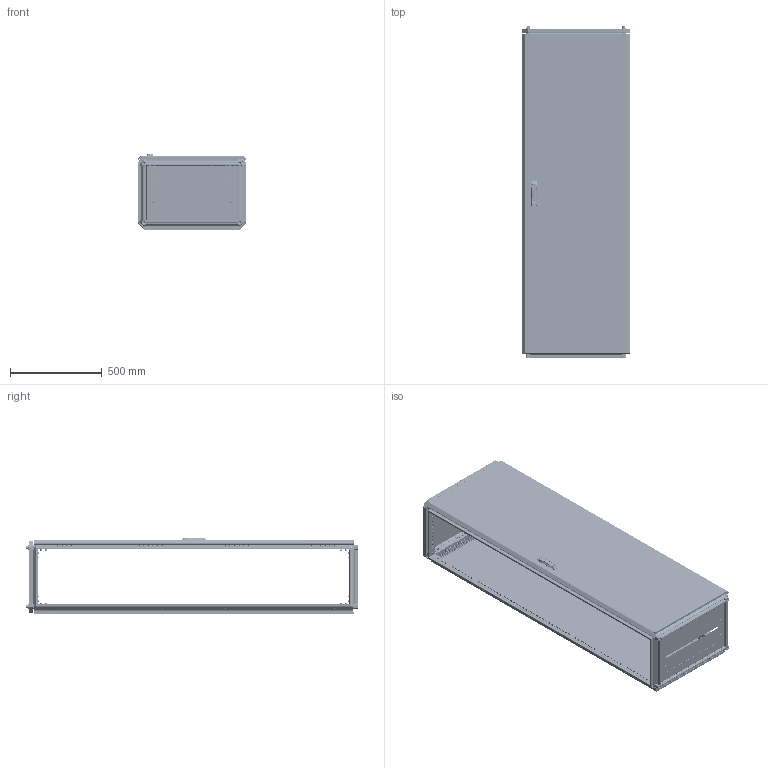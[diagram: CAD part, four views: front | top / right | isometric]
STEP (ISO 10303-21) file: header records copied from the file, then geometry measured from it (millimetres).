
FILE_DESCRIPTION (( 'STEP AP203' ), '1' );
FILE_NAME ('MA1.000.060418.10.00 AleSta1864 Øêàô AleSta 600õ400õ1800.STEP', '2024-08-23T07:43:56', ( '' ), ( '' ), 'SwSTEP 2.0', 'SolidWorks 2021', '' );
FILE_SCHEMA (( 'CONFIG_CONTROL_DESIGN' ));
Length unit declared in the file: millimetre
Products named in the file (50): Âèíò ðåçüáîâûäàâëèâàþùèé Ì6õ12 DIN 7500E_Œ6å10; MA1.101.060620.00.02 Ïðîôèëü ïîïåðå÷íûé ñâàðíîé_01 L=498 (˜=600); òÿãà_lg001-2.STEP_‚ =1800; Óïëîòíèòåëü ïàíåëè íèæíåé_600å400; ﾘ琺矜 65ﾃ 019 ﾃﾎﾑﾒ 6402-70_12; MA1.200.060620.10.00 AleSta-PR206  Ïàíåëü çàäíÿÿ, äëÿ øêàôîâ ALESTA, 2000 x 600_1800å600; MA1.101.060620.00.00 AleSta-RB66 Êîìïëåêò êðûøà è îñíîâàíèå_  600å400; Âèíò_ðåçüáîâûäàâëèâàþùèé_Ì5õ12_DIN 7500E_Œ5å12; Îñü ïåòëè 4õ52_‚¨­â A.M4x0,5x40 ƒŽ‘’ 11644-75; MA1.102.060620.00.00 AleSta-VG2000 Ñòîéêè âåðòèêàëüíûå, Â=2000ìì  (4øò)_  600å400; Âèíò ñ âí. øåñòèãðàííèêîì M12 DIN912_•30; MA1.101.060620.10.00 Êðûøà 600x600_600å400; êðåïëåíèå_êðóãëîé_òÿãè_RG1020-1.stp; MA1.200.060620.30.00 AleSta-D20M600 Äâåðü ñïëîøíàÿ äëÿ øêàôîâ ALESTA ÂõØ 2000õ600_1800å600; MA1.101.060620.00.02 Ïðîôèëü ïîïåðå÷íûé ñâàðíîé_00 L=298 (˜=400); Øïèëüêà Ì6õ12_˜¯¨«ìª  Œ6å16; Âèíò ñàìîíàðåçàþùèé ñ ïîòàéíîé ãîëîâêîé Ì5x14 DIN 7500 M TORX, êëàññ ïðî÷íîñòè 8.8, îöèíêîâàííàÿ ñòàëü_Œ5å12; Óïëîòíèòåëü ïàíåëè íèæíåé_‚=1800; Áîëò øåñòèãðàííûé Ì5õ12 DIN 933, êëàññ ïðî÷íîñòè 8.8, îöèíêîâàííàÿ ñòàëü; Íàâåñêà íà êîðïóñ ïîä êëåïêó; Øïèëüêà Ì6õ12_˜¯¨«ìª  Œ6å20; 7380-2 ISO Âèíòû ñ ïîëóêðóãëîé ãîëîâêîé ñ ôëàíöåì ñ âíóòðåííèì øåñòèãðàííèêîì Ì4õ10; MA1.000.060418.10.00 AleSta1864 Øêàô AleSta 600õ400õ1800; Ïðîáêà ïëàñòèêîâàÿ óíèâåðñàëüíàÿ ïîä îòâåðñòèå 4,5 ìì, ñåðèÿ ST, öâåò áåñöâåòíûé – ST4,5; Ïåòëÿ íà äâåðü ï-îáðàçíàÿ; MA1.200.060620.31.03 Ðåéêà íà äâåðü ãîðèçîíòàëüíàÿ Ø = 600_˜ = 600; MA1.101.060620.10.01 Ïîëîòíî êðûøè 600õ600_600å400; Ãàéêà ñàìîêîíòðÿùàÿñÿ ñ íåéëîíîâîé âñòàâêîé Ì6 DIN 985, êëàññ ïðî÷íîñòè 8, îöèíêîâàííàÿ ñòàëü_Œ5; MA1.200.060620.11.01 Ïîëîòíî çàäíåé ïàíåëè 2000õ600_1800å600; MA1.200.060620.11.00 Ïàíåëü çàäíÿÿ, äëÿ øêàôîâ AleSta, 2000x600_1800å600; Øàéáà ñòîïîðíàÿ ñ íàðóæíûìè çóáöàìè SCHNORR, òèï VS öèíêîâûå õëîïüÿ Ì6 O6,4 ART 88121_Œ6; MS463-2-3(1); MA1.200.060620.31.01 Ïîëîòíî äâåðè ñïëîøíîé 2000õ600_1800å600; MA1.200.060620.31.00 Äâåðü ñïëîøíàÿ äëÿ øêàôîâ ALESTA ÂõØ 2000õ600_1800å600; Âèíò_ðåçüáîâûäàâëèâàþùèé_Ì5õ12_DIN 7500E_00; MA1.101.060620.20.00 Íèæíÿÿ ïàíåëü 600õ600_600å400; 諘蜱齁罻 022 瀁錒瀔隮; Âèíò ñàìîíàðåçàþùèé ñ ïîòàéíîé ãîëîâêîé Ì5x14 DIN 7500 M TORX, êëàññ ïðî÷íîñòè 8.8, îöèíêîâàííàÿ ñòàëü_Œ5å14; MA1.101.060620.20.02 Çàêðûòèå íèæíåé ïàíåëè 600õ600_600å400; äåðæàòåëü_êðóãëîé_òÿãèRG002-RG1010-2-i-RG1010-3-.stp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
Assembly tree (337 placements, depth 4):
  MA1.000.060418.10.00 AleSta1864 Øêàô AleSta 600õ400õ1800
    MA1.101.060620.00.00 AleSta-RB66 Êîìïëåêò êðûøà è îñíîâàíèå_  600å400
      MA1.101.060620.00.02 Ïðîôèëü ïîïåðå÷íûé ñâàðíîé_00 L=298 (˜=400)  x4
      MA1.101.060620.00.02 Ïðîôèëü ïîïåðå÷íûé ñâàðíîé_01 L=498 (˜=600)  x4
      MA1.101.060620.10.00 Êðûøà 600x600_600å400
        MA1.101.060620.10.01 Ïîëîòíî êðûøè 600õ600_600å400
        Øïèëüêà Ì6õ12_˜¯¨«ìª  Œ6å12  x4
        Óïëîòíèòåëü ïàíåëè íèæíåé_600å400
      MA1.101.060620.20.00 Íèæíÿÿ ïàíåëü 600õ600_600å400
        MA1.101.060620.20.01 Ïîëîòíî íèæíåé ïàíåëè 600õ600_600å400
        ﾇﾀﾊﾋﾅﾏﾊﾀ ﾃﾀﾅﾗﾍﾀﾟ ﾘﾅﾑﾒﾈﾃﾐﾀﾍﾍﾀﾟ ﾑ ﾓﾌﾅﾍﾜﾘﾅﾍﾍﾛﾌ ﾁﾎﾐﾒﾎﾌ M4 X 11 (0.5-2.5 ﾌﾌ) HEX U-S ﾖﾈﾍﾊ  x4
        MA1.101.060620.20.02 Çàêðûòèå íèæíåé ïàíåëè 600õ600_600å400  x2
        7380-2 ISO Âèíòû ñ ïîëóêðóãëîé ãîëîâêîé ñ ôëàíöåì ñ âíóòðåííèì øåñòèãðàííèêîì Ì4õ10  x4
      Âèíò_ðåçüáîâûäàâëèâàþùèé_Ì5õ12_DIN 7500E_Œ5å12  x8
      MA1.100.060620.00.01 Ñîåäèíèòåëü óãëîâîé_00  x8
      Âèíò ñ âí. øåñòèãðàííèêîì M12 DIN912_•30  x4
      Âèíò ðåçüáîâûäàâëèâàþùèé Ì6õ12 DIN 7500E_Œ6å10  x96
      ﾘ琺矜 01.019 ﾃﾎﾑﾒ11371-78_12  x4
      ﾘ琺矜 65ﾃ 019 ﾃﾎﾑﾒ 6402-70_12  x4
      Øàéáà ñòîïîðíàÿ ñ íàðóæíûìè çóáöàìè SCHNORR, òèï VS öèíêîâûå õëîïüÿ Ì6 O6,4 ART 88121_Œ6  x80
    MA1.102.060620.00.00 AleSta-VG2000 Ñòîéêè âåðòèêàëüíûå, Â=2000ìì  (4øò)_  600å400
      MA1.102.060620.00.01 Ïðîôèëü âåðòèêàëüíûé ñâàðíîé_03 L=1698 (‚=1800)  x4
    MA1.200.060620.10.00 AleSta-PR206  Ïàíåëü çàäíÿÿ, äëÿ øêàôîâ ALESTA, 2000 x 600_1800å600
      MA1.200.060620.11.00 Ïàíåëü çàäíÿÿ, äëÿ øêàôîâ AleSta, 2000x600_1800å600
        MA1.200.060620.11.01 Ïîëîòíî çàäíåé ïàíåëè 2000õ600_1800å600
        Óïëîòíèòåëü ïàíåëè íèæíåé_‚=1800
        Øïèëüêà Ì6õ12_˜¯¨«ìª  Œ6å12  x4
      Âèíò ñàìîíàðåçàþùèé ñ ïîòàéíîé ãîëîâêîé Ì5x14 DIN 7500 M TORX, êëàññ ïðî÷íîñòè 8.8, îöèíêîâàííàÿ ñòàëü_Œ5å14  x8
    MA1.200.060620.30.00 AleSta-D20M600 Äâåðü ñïëîøíàÿ äëÿ øêàôîâ ALESTA ÂõØ 2000õ600_1800å600
      MA1.200.060620.31.00 Äâåðü ñïëîøíàÿ äëÿ øêàôîâ ALESTA ÂõØ 2000õ600_1800å600
        MA1.200.060620.31.01 Ïîëîòíî äâåðè ñïëîøíîé 2000õ600_1800å600
        Óïëîòíèòåëü ïàíåëè íèæíåé_‚=1800
        Øïèëüêà Ì6õ12_˜¯¨«ìª  Œ6å20  x16
        Øïèëüêà Ì6õ12_˜¯¨«ìª  Œ6å16  x4
        Ïåòëÿ íà äâåðü ï-îáðàçíàÿ  x4
      MA1.200.060620.31.03 Ðåéêà íà äâåðü ãîðèçîíòàëüíàÿ Ø = 600_˜ = 600  x2
      諘蜱齁罻 022 瀁錒瀔隮  x4
      MA1.200.060620.31.02 Ðåéêà íà äâåðü âåðòèêàëüíàÿ Â = 2000_‚=1800  x2
      äåðæàòåëü_êðóãëîé_òÿãèRG002-RG1010-2-i-RG1010-3-.stp  x2
      òÿãà_lg001-2.STEP_‚ =1800  x2
      êðåïëåíèå_êðóãëîé_òÿãè_RG1020-1.stp  x2
      MS463-2-3(1)
      Ãàéêà ñàìîêîíòðÿùàÿñÿ ñ íåéëîíîâîé âñòàâêîé Ì6 DIN 985, êëàññ ïðî÷íîñòè 8, îöèíêîâàííàÿ ñòàëü_Œ6  x16
      Ãàéêà ñàìîêîíòðÿùàÿñÿ ñ íåéëîíîâîé âñòàâêîé Ì6 DIN 985, êëàññ ïðî÷íîñòè 8, îöèíêîâàííàÿ ñòàëü_Œ5  x2
      Áîëò øåñòèãðàííûé Ì5õ12 DIN 933, êëàññ ïðî÷íîñòè 8.8, îöèíêîâàííàÿ ñòàëü  x2
      MA1.200.060620.31.04 ðèãåëü çàìêà äâåðè
      MA1.200.060620.31.05 Óãëîâîé óïîð äâåðíîé òÿãè  x2
      Âèíò_ðåçüáîâûäàâëèâàþùèé_Ì5õ12_DIN 7500E_00  x2
      Íàâåñêà íà êîðïóñ ïîä êëåïêó  x4
      Îñü ïåòëè 4õ52_‚¨­â A.M4x0,5x40 ƒŽ‘’ 11644-75  x4
      Âèíò ñàìîíàðåçàþùèé ñ ïîòàéíîé ãîëîâêîé Ì5x14 DIN 7500 M TORX, êëàññ ïðî÷íîñòè 8.8, îöèíêîâàííàÿ ñòàëü_Œ5å12  x8
  Ïðîáêà ïëàñòèêîâàÿ óíèâåðñàëüíàÿ ïîä îòâåðñòèå 4,5 ìì, ñåðèÿ ST, öâåò áåñöâåòíûé – ST4,5
Bounding box: 592 x 1810.9 x 416.8 mm (x, y, z)
Volume: 8056676.3 mm3; surface area: 9984777.3 mm2
Topology: 364 solids, 378 shells, 23019 faces, 59094 edges, 36904 vertices
Faces by surface type: plane 13737, cylinder 6589, bspline 921, cone 845, torus 829, sphere 98
Entity records: 242584 total; most frequent: CARTESIAN_POINT 78793, ORIENTED_EDGE 31250, DIRECTION 30768, EDGE_CURVE 15642, AXIS2_PLACEMENT_3D 10592, VERTEX_POINT 9725, VECTOR 9584, LINE 9584
